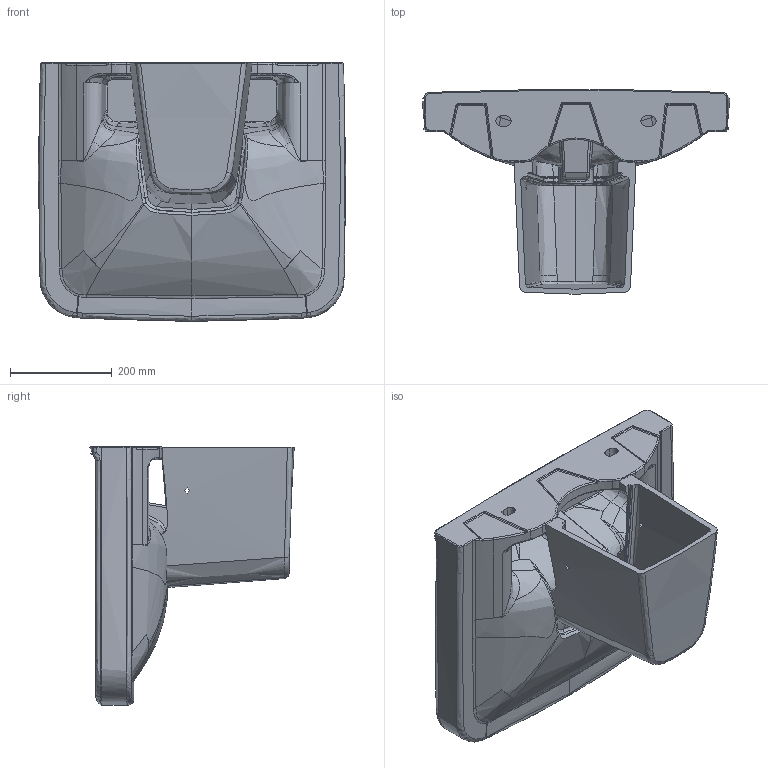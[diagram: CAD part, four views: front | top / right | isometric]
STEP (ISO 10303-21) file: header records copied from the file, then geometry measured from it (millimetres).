
FILE_DESCRIPTION (( 'STEP AP203' ), '1' );
FILE_NAME ('LR060-00CB00E-0000+LR260-00CB00E-0000.STEP', '2022-05-09T08:45:45', ( '' ), ( '' ), 'SwSTEP 2.0', 'SolidWorks 2021', '' );
FILE_SCHEMA (( 'CONFIG_CONTROL_DESIGN' ));
Products named in the file (1): LR060-00CB00E-0000+LR260-00CB00E-0000
Bounding box: 604.1 x 401.81 x 508.38 mm (x, y, z)
Volume: 18271396.8 mm3; surface area: 1397930 mm2
Topology: 3 solids, 5 shells, 507 faces, 1283 edges, 742 vertices
Faces by surface type: bspline 340, cylinder 79, plane 56, torus 15, sphere 12, cone 5
Entity records: 103321 total; most frequent: CARTESIAN_POINT 94111, ORIENTED_EDGE 2482, EDGE_CURVE 1241, DIRECTION 1083, VERTEX_POINT 742, B_SPLINE_CURVE_WITH_KNOTS 691, EDGE_LOOP 519, ADVANCED_FACE 507
